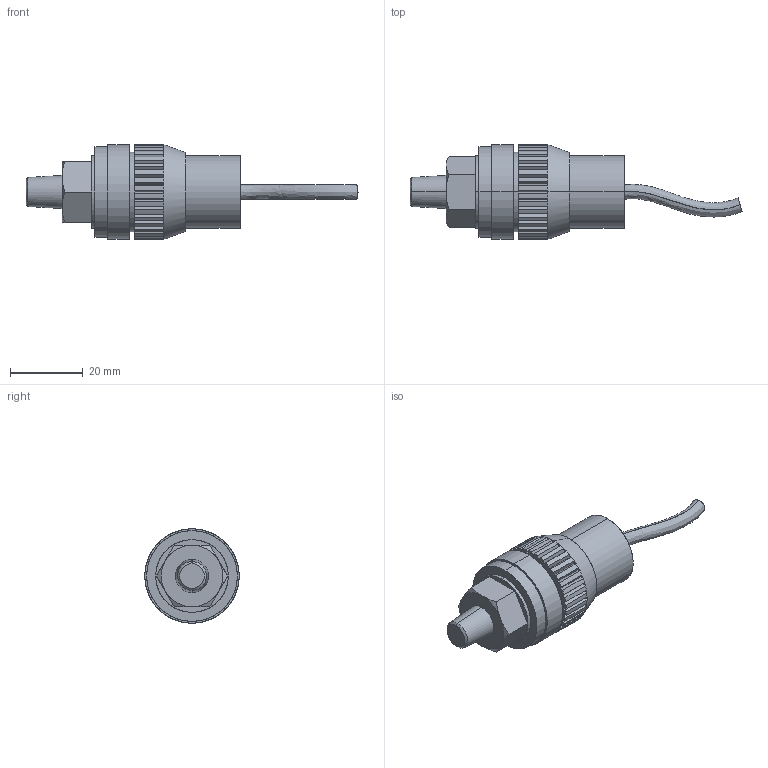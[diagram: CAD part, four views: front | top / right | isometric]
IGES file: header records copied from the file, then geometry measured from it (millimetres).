
Start section: SolidWorks IGES file using analytic representation for surfaces
Global section: file name: C:\Users\Toshiba\Desktop\PS-6-1.IGS; native system: SolidWorks 2014; preprocessor: SolidWorks 2014; author: Toshiba; date: 160803.104428; units: millimetre
Bounding box: 91.46 x 26 x 26 mm (x, y, z)
Surface area: 5671.9 mm2 (no closed solid volume)
Topology: 0 solids, 0 shells, 184 faces, 1436 edges, 1436 vertices
Faces by surface type: bspline 132, revolution 52
